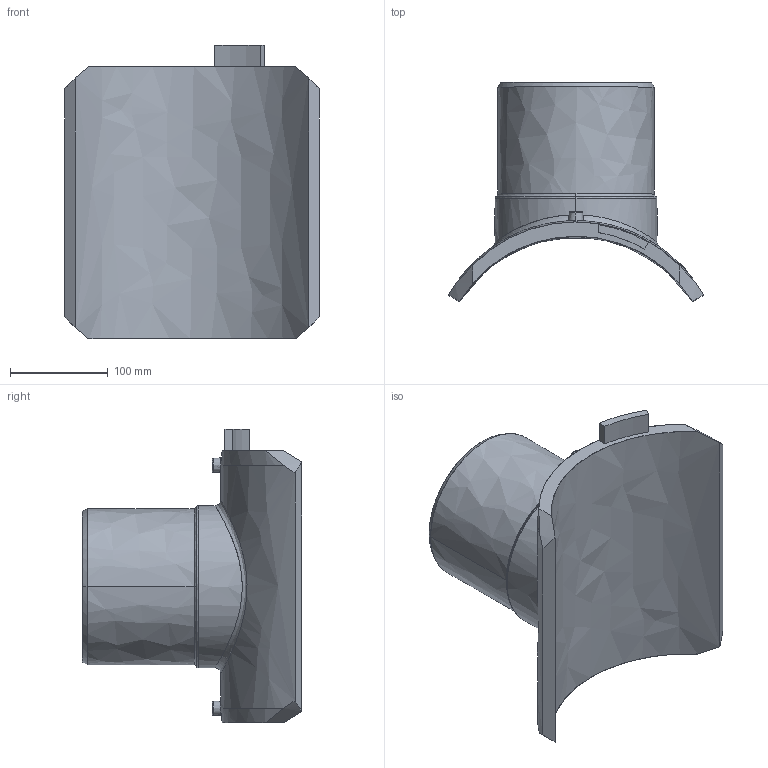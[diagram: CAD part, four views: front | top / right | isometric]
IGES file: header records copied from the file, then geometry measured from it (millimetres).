
Start section:  PTC IGES file: sa-uni_d280_160_01.igs
Global section: file name: sa-uni_d280_160_01.igs; native system: Pro/ENGINEER by Parametric Technology Corporation; preprocessor: 2011490; author: MikulicP; organization: Unknown; date: 20170202.142049; units: millimetre
Bounding box: 261 x 224.86 x 301 mm (x, y, z)
Surface area: 331713 mm2 (no closed solid volume)
Topology: 0 solids, 0 shells, 206 faces, 1018 edges, 1016 vertices
Faces by surface type: bspline 206
